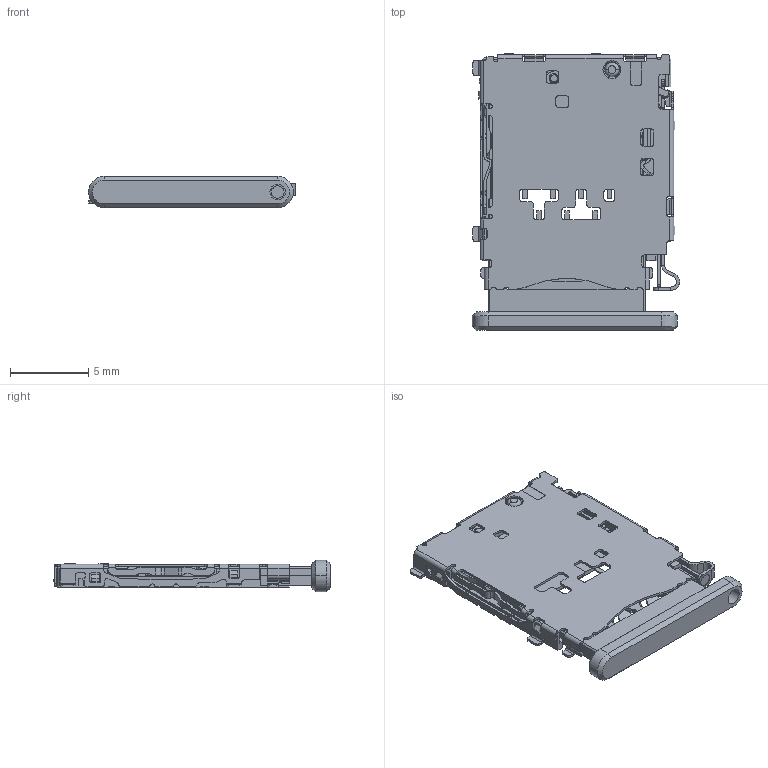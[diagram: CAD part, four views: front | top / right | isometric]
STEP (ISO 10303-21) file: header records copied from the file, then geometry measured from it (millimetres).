
FILE_DESCRIPTION((''),'2;1');
FILE_NAME('ASM0002_ASM','2023-06-07T10:25:55',('Administrator'),(''),'CREO PARAMETRIC BY PTC INC, 2020053','CREO PARAMETRIC BY PTC INC, 2020053','');
FILE_SCHEMA(('CONFIG_CONTROL_DESIGN'));
Products named in the file (5): 1050811AR001-1_1; 1050811AR001-2_1; 1050811AR001_ASM_1_ASM; 1050811AR003; ASM0002_ASM
Assembly tree (4 placements, depth 3):
  ASM0002_ASM
    1050811AR001_ASM_1_ASM
      1050811AR001-1_1
      1050811AR001-2_1
    1050811AR003
Bounding box: 13.23 x 17.69 x 2 mm (x, y, z)
Volume: 151.2 mm3; surface area: 1103.9 mm2
Topology: 3 solids, 4 shells, 1976 faces, 5509 edges, 3525 vertices
Faces by surface type: plane 1154, cylinder 745, torus 45, bspline 16, sphere 10, cone 6
Entity records: 64578 total; most frequent: CARTESIAN_POINT 12756, ORIENTED_EDGE 10996, DIRECTION 10848, EDGE_CURVE 5498, VECTOR 3764, LINE 3764, AXIS2_PLACEMENT_3D 3542, VERTEX_POINT 3525
